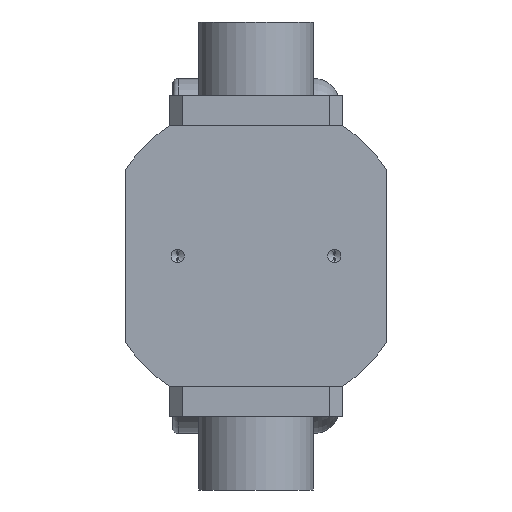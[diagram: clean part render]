
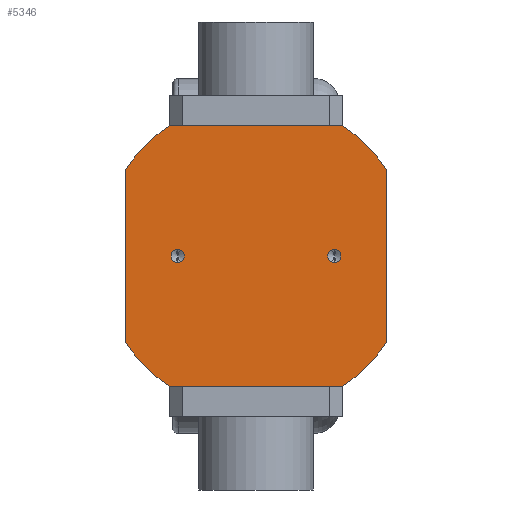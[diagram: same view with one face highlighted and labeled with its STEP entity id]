
A CAD part, front view. The second image highlights one B-rep face of the part: STEP entity #5346.
In plain terms, the highlighted planar face has unit normal (0, -1, 0).
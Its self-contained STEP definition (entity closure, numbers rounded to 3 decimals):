
#12 = AXIS2_PLACEMENT_3D ( 'NONE', #3160, #23, #3683 ) ;
#23 = DIRECTION ( 'NONE',  ( 0., 1., 0. ) ) ;
#56 = VERTEX_POINT ( 'NONE', #491 ) ;
#301 = VECTOR ( 'NONE', #1488, 1000. ) ;
#372 = DIRECTION ( 'NONE',  ( 0., 0., 1. ) ) ;
#441 = CARTESIAN_POINT ( 'NONE',  ( 25., 0., -16.583 ) ) ;
#469 = CIRCLE ( 'NONE', #983, 1.25 ) ;
#477 = LINE ( 'NONE', #441, #301 ) ;
#480 = ORIENTED_EDGE ( 'NONE', *, *, #5689, .F. ) ;
#486 = CARTESIAN_POINT ( 'NONE',  ( -25., 0., -16.583 ) ) ;
#491 = CARTESIAN_POINT ( 'NONE',  ( -15., 0., 1.25 ) ) ;
#499 = DIRECTION ( 'NONE',  ( 0., 0., 1. ) ) ;
#539 = CARTESIAN_POINT ( 'NONE',  ( 25., 0., -16.583 ) ) ;
#613 = EDGE_CURVE ( 'NONE', #4305, #723, #6438, .T. ) ;
#723 = VERTEX_POINT ( 'NONE', #2346 ) ;
#729 = DIRECTION ( 'NONE',  ( 0., 1., 0. ) ) ;
#902 = VECTOR ( 'NONE', #2133, 1000. ) ;
#983 = AXIS2_PLACEMENT_3D ( 'NONE', #4259, #1148, #4778 ) ;
#1035 = DIRECTION ( 'NONE',  ( 0., -1., 0. ) ) ;
#1148 = DIRECTION ( 'NONE',  ( 0., -1., 0. ) ) ;
#1191 = EDGE_LOOP ( 'NONE', ( #2707, #3899 ) ) ;
#1231 = DIRECTION ( 'NONE',  ( 0., 1., 0. ) ) ;
#1242 = CARTESIAN_POINT ( 'NONE',  ( 16.583, 0., -25. ) ) ;
#1256 = DIRECTION ( 'NONE',  ( -1., 0., 0. ) ) ;
#1305 = EDGE_CURVE ( 'NONE', #56, #6143, #3731, .T. ) ;
#1462 = FACE_OUTER_BOUND ( 'NONE', #2594, .T. ) ;
#1487 = ORIENTED_EDGE ( 'NONE', *, *, #613, .F. ) ;
#1488 = DIRECTION ( 'NONE',  ( 0., 0., -1. ) ) ;
#1489 = EDGE_CURVE ( 'NONE', #5521, #5917, #477, .T. ) ;
#1506 = ORIENTED_EDGE ( 'NONE', *, *, #2056, .F. ) ;
#1538 = AXIS2_PLACEMENT_3D ( 'NONE', #4346, #1231, #4859 ) ;
#1566 = ORIENTED_EDGE ( 'NONE', *, *, #6576, .F. ) ;
#1634 = AXIS2_PLACEMENT_3D ( 'NONE', #3842, #729, #4373 ) ;
#1741 = DIRECTION ( 'NONE',  ( 0., 0., 1. ) ) ;
#1770 = CIRCLE ( 'NONE', #12, 30. ) ;
#1955 = CARTESIAN_POINT ( 'NONE',  ( -25., 0., -16.583 ) ) ;
#2056 = EDGE_CURVE ( 'NONE', #5917, #5372, #4934, .T. ) ;
#2113 = AXIS2_PLACEMENT_3D ( 'NONE', #2345, #5991, #2863 ) ;
#2133 = DIRECTION ( 'NONE',  ( 1., 0., 0. ) ) ;
#2192 = CARTESIAN_POINT ( 'NONE',  ( -25., 0., 16.583 ) ) ;
#2199 = ORIENTED_EDGE ( 'NONE', *, *, #3121, .F. ) ;
#2306 = VERTEX_POINT ( 'NONE', #5442 ) ;
#2345 = CARTESIAN_POINT ( 'NONE',  ( -15., 0., 0. ) ) ;
#2346 = CARTESIAN_POINT ( 'NONE',  ( 16.583, 0., 25. ) ) ;
#2366 = AXIS2_PLACEMENT_3D ( 'NONE', #4338, #3297, #1741 ) ;
#2498 = VERTEX_POINT ( 'NONE', #3495 ) ;
#2523 = LINE ( 'NONE', #4892, #3888 ) ;
#2594 = EDGE_LOOP ( 'NONE', ( #3609, #4441, #1487, #3755, #1566, #480, #4312, #1506 ) ) ;
#2690 = LINE ( 'NONE', #1955, #6671 ) ;
#2707 = ORIENTED_EDGE ( 'NONE', *, *, #2880, .F. ) ;
#2816 = CIRCLE ( 'NONE', #4604, 1.25 ) ;
#2825 = CARTESIAN_POINT ( 'NONE',  ( -16.583, 0., -25. ) ) ;
#2832 = FACE_BOUND ( 'NONE', #1191, .T. ) ;
#2851 = VERTEX_POINT ( 'NONE', #486 ) ;
#2863 = DIRECTION ( 'NONE',  ( 0., 0., -1. ) ) ;
#2880 = EDGE_CURVE ( 'NONE', #6143, #56, #2816, .T. ) ;
#2918 = CIRCLE ( 'NONE', #1538, 30. ) ;
#3012 = DIRECTION ( 'NONE',  ( 0., -1., 0. ) ) ;
#3121 = EDGE_CURVE ( 'NONE', #2306, #2498, #469, .T. ) ;
#3160 = CARTESIAN_POINT ( 'NONE',  ( 0., 0., 0. ) ) ;
#3171 = CARTESIAN_POINT ( 'NONE',  ( -15., 0., -1.25 ) ) ;
#3178 = VERTEX_POINT ( 'NONE', #2192 ) ;
#3297 = DIRECTION ( 'NONE',  ( 0., 1., 0. ) ) ;
#3452 = EDGE_CURVE ( 'NONE', #2498, #2306, #3969, .T. ) ;
#3495 = CARTESIAN_POINT ( 'NONE',  ( 15., 0., 1.25 ) ) ;
#3609 = ORIENTED_EDGE ( 'NONE', *, *, #1489, .F. ) ;
#3622 = DIRECTION ( 'NONE',  ( 0., 1., 0. ) ) ;
#3643 = AXIS2_PLACEMENT_3D ( 'NONE', #6138, #3012, #6646 ) ;
#3683 = DIRECTION ( 'NONE',  ( 0., 0., 1. ) ) ;
#3731 = CIRCLE ( 'NONE', #2113, 1.25 ) ;
#3734 = EDGE_CURVE ( 'NONE', #723, #5521, #1770, .T. ) ;
#3755 = ORIENTED_EDGE ( 'NONE', *, *, #3955, .F. ) ;
#3842 = CARTESIAN_POINT ( 'NONE',  ( 0., 0., 0. ) ) ;
#3888 = VECTOR ( 'NONE', #1256, 1000. ) ;
#3899 = ORIENTED_EDGE ( 'NONE', *, *, #1305, .F. ) ;
#3955 = EDGE_CURVE ( 'NONE', #3178, #4305, #4627, .T. ) ;
#3969 = CIRCLE ( 'NONE', #3643, 1.25 ) ;
#4138 = CARTESIAN_POINT ( 'NONE',  ( -15., 0., 0. ) ) ;
#4225 = FACE_BOUND ( 'NONE', #5011, .T. ) ;
#4259 = CARTESIAN_POINT ( 'NONE',  ( 15., 0., 0. ) ) ;
#4282 = ORIENTED_EDGE ( 'NONE', *, *, #3452, .F. ) ;
#4305 = VERTEX_POINT ( 'NONE', #6488 ) ;
#4312 = ORIENTED_EDGE ( 'NONE', *, *, #5401, .F. ) ;
#4338 = CARTESIAN_POINT ( 'NONE',  ( 0., 0., 0. ) ) ;
#4346 = CARTESIAN_POINT ( 'NONE',  ( 0., 0., 0. ) ) ;
#4373 = DIRECTION ( 'NONE',  ( 0., 0., 1. ) ) ;
#4441 = ORIENTED_EDGE ( 'NONE', *, *, #3734, .F. ) ;
#4604 = AXIS2_PLACEMENT_3D ( 'NONE', #4138, #1035, #4675 ) ;
#4627 = CIRCLE ( 'NONE', #1634, 30. ) ;
#4675 = DIRECTION ( 'NONE',  ( 0., 0., -1. ) ) ;
#4778 = DIRECTION ( 'NONE',  ( 0., 0., -1. ) ) ;
#4851 = PLANE ( 'NONE',  #2366 ) ;
#4859 = DIRECTION ( 'NONE',  ( 0., 0., 1. ) ) ;
#4892 = CARTESIAN_POINT ( 'NONE',  ( -16.583, 0., -25. ) ) ;
#4934 = CIRCLE ( 'NONE', #5826, 30. ) ;
#5011 = EDGE_LOOP ( 'NONE', ( #2199, #4282 ) ) ;
#5074 = VERTEX_POINT ( 'NONE', #2825 ) ;
#5246 = CARTESIAN_POINT ( 'NONE',  ( -16.583, 0., 25. ) ) ;
#5309 = CARTESIAN_POINT ( 'NONE',  ( 25., 0., 16.583 ) ) ;
#5346 = ADVANCED_FACE ( 'NONE', ( #2832, #4225, #1462 ), #4851, .F. ) ;
#5372 = VERTEX_POINT ( 'NONE', #1242 ) ;
#5401 = EDGE_CURVE ( 'NONE', #5372, #5074, #2523, .T. ) ;
#5442 = CARTESIAN_POINT ( 'NONE',  ( 15., 0., -1.25 ) ) ;
#5521 = VERTEX_POINT ( 'NONE', #5309 ) ;
#5689 = EDGE_CURVE ( 'NONE', #5074, #2851, #2918, .T. ) ;
#5826 = AXIS2_PLACEMENT_3D ( 'NONE', #6729, #3622, #499 ) ;
#5917 = VERTEX_POINT ( 'NONE', #539 ) ;
#5991 = DIRECTION ( 'NONE',  ( 0., -1., 0. ) ) ;
#6138 = CARTESIAN_POINT ( 'NONE',  ( 15., 0., 0. ) ) ;
#6143 = VERTEX_POINT ( 'NONE', #3171 ) ;
#6438 = LINE ( 'NONE', #5246, #902 ) ;
#6488 = CARTESIAN_POINT ( 'NONE',  ( -16.583, 0., 25. ) ) ;
#6576 = EDGE_CURVE ( 'NONE', #2851, #3178, #2690, .T. ) ;
#6646 = DIRECTION ( 'NONE',  ( 0., 0., -1. ) ) ;
#6671 = VECTOR ( 'NONE', #372, 1000. ) ;
#6729 = CARTESIAN_POINT ( 'NONE',  ( 0., 0., 0. ) ) ;
